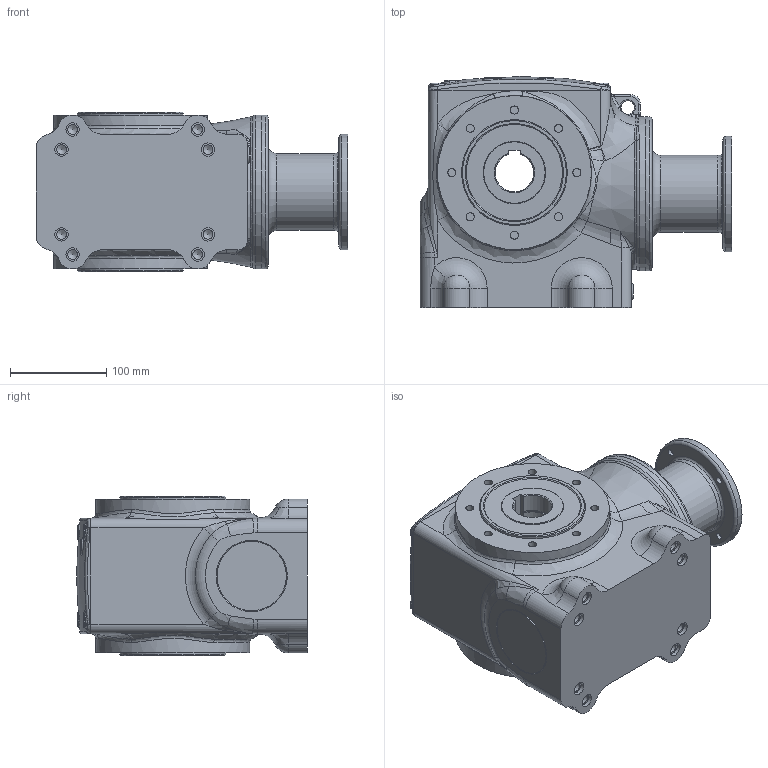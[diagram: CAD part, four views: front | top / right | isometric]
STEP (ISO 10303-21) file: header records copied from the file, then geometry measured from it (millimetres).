
FILE_DESCRIPTION(/* description */ (''),/* implementation_level */ '2;1');
FILE_NAME(/* name */ 'Z:\Dertec\RVS pakket tekeningen\Kasten\FSA + FS serie\FS\FS68\Step Customer\FS68 HA40 AMFL 80B14A #.stp',/* time_stamp */ '2017-12-08T11:18:08+01:00',/* author */ ('Dertec'),/* organization */ (''),/* preprocessor_version */ 'ST-DEVELOPER v16.1',/* originating_system */ 'Autodesk Inventor 2016',/* authorisation */ '');
FILE_SCHEMA (('AUTOMOTIVE_DESIGN { 1 0 10303 214 3 1 1 }'));
Length unit declared in the file: inch
Products named in the file (1): Part39
Bounding box: 324 x 240 x 166 mm (x, y, z)
Volume: 6503757.2 mm3; surface area: 480410 mm2
Topology: 1 solids, 5 shells, 563 faces, 1269 edges, 782 vertices
Faces by surface type: cylinder 169, plane 152, bspline 132, torus 56, cone 48, sphere 6
Full cylindrical faces by diameter (mm): 4.134 x8, 5.5 x8, 6.647 x4, 7 x4, 8.376 x16, 8.917 x1, 9 x4, 10.106 x8, 11 x8, 14 x9, 46 x1, 47 x1, 64.9 x3, 65 x2, 66 x1, 68 x2, 68.4 x1, 69 x1, 71 x1, 72 x2, 74.3 x1, 80 x2, 84 x1, 87 x1, 100 x4, 103.5 x2, 110 x2, 116 x1, 119 x1, 120 x1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
Entity records: 22174 total; most frequent: CARTESIAN_POINT 10693, DIRECTION 2126, ORIENTED_EDGE 2068, EDGE_CURVE 1034, AXIS2_PLACEMENT_3D 963, EDGE_LOOP 822, VERTEX_POINT 722, FACE_OUTER_BOUND 563
